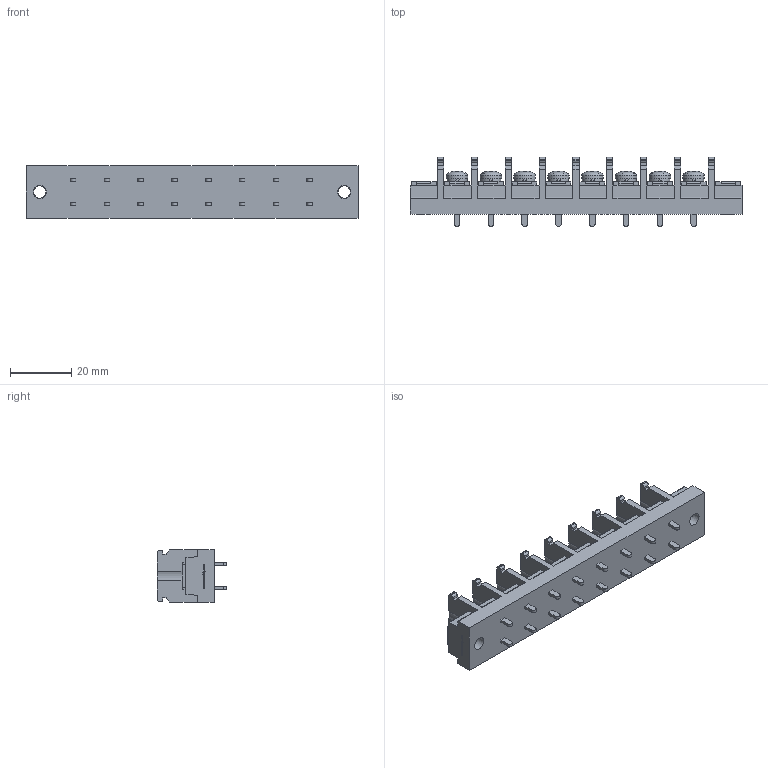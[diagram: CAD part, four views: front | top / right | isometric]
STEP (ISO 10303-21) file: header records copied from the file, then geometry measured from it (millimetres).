
FILE_DESCRIPTION(/* description */ ('Alibre Inc.'),/* implementation_level */ '2;1');
FILE_NAME(/* name */ 'export0',/* time_stamp */ '2015-10-19T19:52:53+09:00',/* author */ (''),/* organization */ (''),/* preprocessor_version */ 'ST-DEVELOPER v14',/* originating_system */ 'Alibre',/* authorisation */ '');
FILE_SCHEMA (('CONFIG_CONTROL_DESIGN'));
Length unit declared in the file: centimetre
Products named in the file (1): ID_1
Bounding box: 108 x 22.5 x 17 mm (x, y, z)
Volume: 19551 mm3; surface area: 11119 mm2
Topology: 1 solids, 1 shells, 1084 faces, 2996 edges, 1990 vertices
Faces by surface type: plane 766, cylinder 158, bspline 104, cone 32, torus 16, sphere 8
Full cylindrical faces by diameter (mm): 4 x10, 4.2 x2, 6.5 x8, 7 x8
Entity records: 33402 total; most frequent: CARTESIAN_POINT 7129, ORIENTED_EDGE 5868, DIRECTION 4361, EDGE_CURVE 2934, VECTOR 2093, LINE 2093, VERTEX_POINT 1964, AXIS2_PLACEMENT_3D 1504
